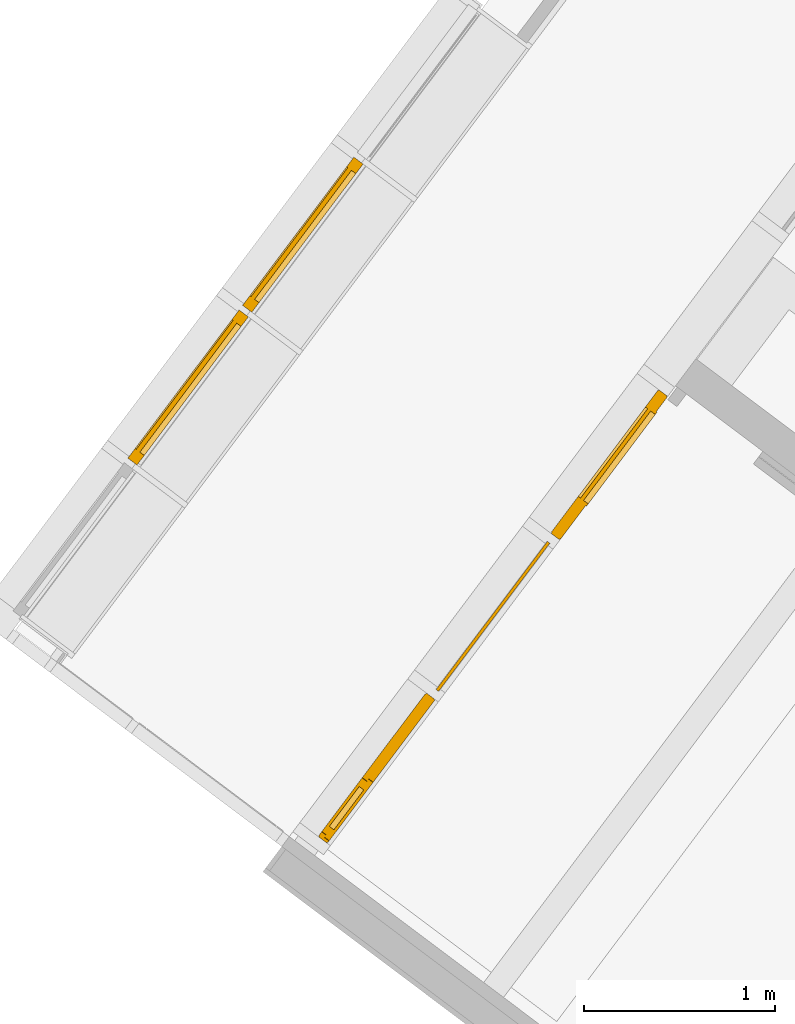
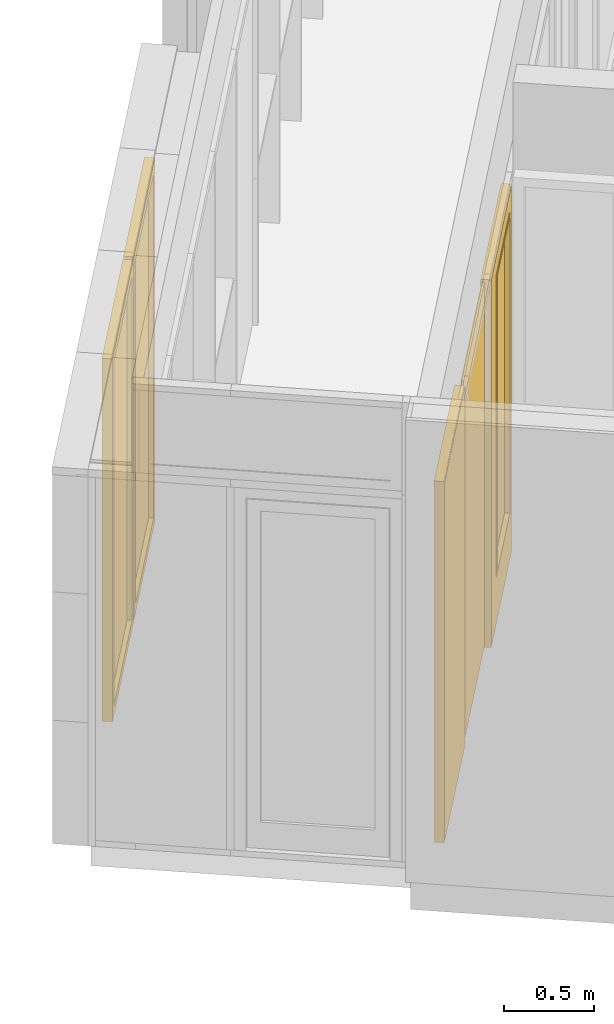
# One storey, part 141 of 243: 4 windows, 1 door, 2 elements without a shape of their own.
"""IFC2X3 building model written with IfcOpenShell, lengths in metres."""

from ifc_helpers import new_model, entity, si_unit, converted_unit, derived_unit, direction, frame, origin, origin_2d_with_axis, place, context, subcontext, project, spatial, rectangle, extrude, faceted_brep, source, transform, mapped, material, material_list, type_object, type_shapes, element, aggregate, save


model = new_model("IFC2X3")

# Units and contexts
model_context = context("Model", 3, precision=1e-05, world=origin(), true_north=direction((6.123031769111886e-17, 1.0)))
body_context = subcontext(model_context, "Body", "Model", "MODEL_VIEW")
ifc_project = project(units=[si_unit("LENGTHUNIT", "METRE"), si_unit("AREAUNIT", "SQUARE_METRE"), si_unit("VOLUMEUNIT", "CUBIC_METRE"), converted_unit("PLANEANGLEUNIT", "DEGREE", entity("IfcRatioMeasure", 0.017453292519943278), si_unit("PLANEANGLEUNIT", "RADIAN"), dimensions=[0, 0, 0, 0, 0, 0, 0]), si_unit("MASSUNIT", "GRAM", prefix="KILO"), derived_unit("MASSDENSITYUNIT", [(si_unit("MASSUNIT", "GRAM", prefix="KILO"), 1), (si_unit("LENGTHUNIT", "METRE"), -3)]), derived_unit("IONCONCENTRATIONUNIT", [(si_unit("MASSUNIT", "GRAM", prefix="KILO"), 1), (si_unit("LENGTHUNIT", "METRE"), -3)]), derived_unit("MOMENTOFINERTIAUNIT", [(si_unit("LENGTHUNIT", "METRE"), 4)]), si_unit("TIMEUNIT", "SECOND"), si_unit("FREQUENCYUNIT", "HERTZ"), si_unit("THERMODYNAMICTEMPERATUREUNIT", "DEGREE_CELSIUS"), derived_unit("THERMALTRANSMITTANCEUNIT", [(si_unit("MASSUNIT", "GRAM", prefix="KILO"), 1), (si_unit("THERMODYNAMICTEMPERATUREUNIT", "KELVIN"), -1), (si_unit("TIMEUNIT", "SECOND"), -3)]), derived_unit("THERMALCONDUCTANCEUNIT", [(si_unit("MASSUNIT", "GRAM", prefix="KILO"), 1), (si_unit("THERMODYNAMICTEMPERATUREUNIT", "KELVIN"), -1), (si_unit("TIMEUNIT", "SECOND"), -3), (si_unit("LENGTHUNIT", "METRE"), 1)]), derived_unit("VOLUMETRICFLOWRATEUNIT", [(si_unit("LENGTHUNIT", "METRE"), 3), (si_unit("TIMEUNIT", "SECOND"), -1)]), derived_unit("MASSFLOWRATEUNIT", [(si_unit("MASSUNIT", "GRAM", prefix="KILO"), 1), (si_unit("TIMEUNIT", "SECOND"), -1)]), derived_unit("ROTATIONALFREQUENCYUNIT", [(si_unit("TIMEUNIT", "SECOND"), -1)]), si_unit("ELECTRICCURRENTUNIT", "AMPERE"), si_unit("ELECTRICVOLTAGEUNIT", "VOLT"), si_unit("POWERUNIT", "WATT"), si_unit("FORCEUNIT", "NEWTON", prefix="KILO"), si_unit("ILLUMINANCEUNIT", "LUX"), si_unit("LUMINOUSFLUXUNIT", "LUMEN"), si_unit("LUMINOUSINTENSITYUNIT", "CANDELA"), derived_unit("USERDEFINED", [(si_unit("MASSUNIT", "GRAM", prefix="KILO"), -1), (si_unit("LENGTHUNIT", "METRE"), -2), (si_unit("TIMEUNIT", "SECOND"), 3), (si_unit("LUMINOUSFLUXUNIT", "LUMEN"), 1)]), derived_unit("USERDEFINED", [(si_unit("MASSUNIT", "GRAM", prefix="KILO"), 1), (si_unit("TIMEUNIT", "SECOND"), -3), (si_unit("LENGTHUNIT", "METRE"), 3), (si_unit("ELECTRICCURRENTUNIT", "AMPERE"), -2)]), derived_unit("SOUNDPOWERUNIT", [(si_unit("MASSUNIT", "GRAM", prefix="KILO"), 1), (si_unit("TIMEUNIT", "SECOND"), -3), (si_unit("LENGTHUNIT", "METRE"), 2)]), derived_unit("SOUNDPRESSUREUNIT", [(si_unit("MASSUNIT", "GRAM", prefix="KILO"), 1), (si_unit("LENGTHUNIT", "METRE"), -1), (si_unit("TIMEUNIT", "SECOND"), -2)]), derived_unit("LINEARVELOCITYUNIT", [(si_unit("LENGTHUNIT", "METRE"), 1), (si_unit("TIMEUNIT", "SECOND"), -1)]), si_unit("PRESSUREUNIT", "PASCAL"), derived_unit("USERDEFINED", [(si_unit("MASSUNIT", "GRAM", prefix="KILO"), 1), (si_unit("LENGTHUNIT", "METRE"), -2), (si_unit("TIMEUNIT", "SECOND"), -2)]), derived_unit("LINEARFORCEUNIT", [(si_unit("MASSUNIT", "GRAM", prefix="KILO"), 1), (si_unit("TIMEUNIT", "SECOND"), -2)]), derived_unit("PLANARFORCEUNIT", [(si_unit("MASSUNIT", "GRAM", prefix="KILO"), 1), (si_unit("LENGTHUNIT", "METRE"), -1), (si_unit("TIMEUNIT", "SECOND"), -2)]), derived_unit("SPECIFICHEATCAPACITYUNIT", [(si_unit("THERMODYNAMICTEMPERATUREUNIT", "KELVIN"), -1), (si_unit("LENGTHUNIT", "METRE"), 2), (si_unit("TIMEUNIT", "SECOND"), -2)]), derived_unit("HEATINGVALUEUNIT", [(si_unit("LENGTHUNIT", "METRE"), 2), (si_unit("TIMEUNIT", "SECOND"), -2)]), derived_unit("VAPORPERMEABILITYUNIT", [(si_unit("LENGTHUNIT", "METRE"), -1), (si_unit("TIMEUNIT", "SECOND"), 1)]), derived_unit("DYNAMICVISCOSITYUNIT", [(si_unit("MASSUNIT", "GRAM", prefix="KILO"), 1), (si_unit("TIMEUNIT", "SECOND"), -1), (si_unit("LENGTHUNIT", "METRE"), -1)]), derived_unit("THERMALEXPANSIONCOEFFICIENTUNIT", [(si_unit("THERMODYNAMICTEMPERATUREUNIT", "KELVIN"), -1)]), derived_unit("MODULUSOFELASTICITYUNIT", [(si_unit("MASSUNIT", "GRAM", prefix="KILO"), 1), (si_unit("LENGTHUNIT", "METRE"), -1), (si_unit("TIMEUNIT", "SECOND"), -2)]), derived_unit("ISOTHERMALMOISTURECAPACITYUNIT", [(si_unit("LENGTHUNIT", "METRE"), 3), (si_unit("MASSUNIT", "GRAM", prefix="KILO"), -1)]), derived_unit("MOISTUREDIFFUSIVITYUNIT", [(si_unit("TIMEUNIT", "SECOND"), -1), (si_unit("LENGTHUNIT", "METRE"), 2)])], contexts=[model_context])

# Site, building, storey
site_placement = place(None, frame((0.0, 0.0, 235.0), z_axis=(0.0, 0.0, 1.0), x_axis=(-0.7996477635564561, 0.6004693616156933, 0.0)))
site = spatial("IfcSite", under=ifc_project, at=site_placement, Name="Default", CompositionType="ELEMENT")
building_placement = place(site_placement, origin())
building = spatial("IfcBuilding", under=site, at=building_placement, CompositionType="ELEMENT")
storey_placement = place(building_placement, origin())
storey = spatial("IfcBuildingStorey", under=building, at=storey_placement, Name="P0- Escola", CompositionType="ELEMENT", Elevation=0.0)

# Curtain wall, windows, door
curtain_wall_type_1 = type_object("IfcCurtainWallType", Name="Muro cortina:MC- INT- a1", PredefinedType="NOTDEFINED")
curtain_wall_1_placement = place(storey_placement, origin())
curtain_wall_1 = element("IfcCurtainWall", 1, at=curtain_wall_1_placement, inside=storey, type_object=curtain_wall_type_1, Name="Muro cortina:MC- INT- a1", ObjectType="Muro cortina:MC- INT- a1")
ifc_material_1 = material(Name="_Fusta massisa- T1-  REV- PAV")
window_style_1 = type_object("IfcWindowStyle", Name="MC- Fusta- Finestra ventilacio interior:MC- Fusta- Finestra ventilacio interior", ConstructionType="NOTDEFINED", OperationType="NOTDEFINED", ParameterTakesPrecedence=False, Sizeable=False, material=ifc_material_1)
shared_shape_1 = source(origin(), body_context, "Body", "Brep", [
    faceted_brep([(-0.39299910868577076, 0.025000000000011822, 2.382999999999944), (-0.3929991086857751, 0.025000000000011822, 1.0449999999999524), (-0.13199910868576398, 0.0250000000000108, 1.0449999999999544), (-0.13199910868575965, 0.02500000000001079, 2.382999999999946), (-0.13199910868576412, -0.004999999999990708, 1.0449999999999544), (-0.1319991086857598, -0.004999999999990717, 2.382999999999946), (-0.3929991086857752, -0.004999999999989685, 1.0449999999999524), (-0.3929991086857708, -0.004999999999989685, 2.382999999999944), (-0.08699910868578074, 0.04000000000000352, 2.427999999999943), (-0.08699910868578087, 0.01000000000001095, 2.428000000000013), (-0.08699910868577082, 0.010000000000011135, 1.0), (-0.08699910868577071, 0.04000000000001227, 1.0), (-0.43799910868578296, 0.010000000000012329, 1.0), (-0.43799910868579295, 0.010000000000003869, 2.427999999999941), (-0.4379991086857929, 0.0400000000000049, 2.427999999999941), (-0.4379991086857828, 0.04000000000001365, 1.0), (-0.07199910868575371, 0.009999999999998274, 0.9850000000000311), (-0.45299910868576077, 0.009999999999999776, 0.9850000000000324), (-0.45299910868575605, 0.010000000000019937, 2.4430000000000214), (-0.07199910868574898, 0.010000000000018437, 2.44300000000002), (-0.07199910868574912, -0.019999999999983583, 2.443000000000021), (-0.45299910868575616, -0.019999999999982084, 2.443000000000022), (-0.45299910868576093, -0.02000000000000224, 0.985000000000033), (-0.07199910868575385, -0.020000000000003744, 0.9850000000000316)], [[[0, 1, 2, 3]], [[3, 2, 4, 5]], [[5, 4, 6, 7]], [[1, 0, 7, 6]], [[8, 9, 10, 11]], [[12, 13, 14, 15]], [[13, 9, 8, 14]], [[8, 11, 15, 14]], [[0, 3, 5, 7]], [[2, 1, 6, 4]], [[11, 10, 12, 15]], [[9, 13, 12, 10], [16, 17, 18, 19]], [[20, 21, 22, 23]], [[20, 19, 18, 21]], [[16, 19, 20, 23]], [[18, 17, 22, 21]], [[16, 23, 22, 17]]], outer=[[True], [True], [True], [True], [True], [True], [True], [True], [True], [True], [True], [False, True], [True], [True], [True], [True], [True]]),
    faceted_brep([(0.4649991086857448, -0.019999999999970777, 2.4549999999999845), (-0.4649991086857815, -0.019999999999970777, 2.4549999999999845), (-0.46499910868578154, -0.020000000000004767, 0.004999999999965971), (0.46499910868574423, -0.020000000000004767, 0.004999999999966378), (-0.4549991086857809, -0.019999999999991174, 0.9850000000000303), (-0.4549991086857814, -0.01999999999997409, 2.444999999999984), (-0.06999910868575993, -0.019999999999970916, 2.444999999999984), (-0.06999910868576, -0.019999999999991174, 0.9850000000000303), (-0.46499910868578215, -0.01599999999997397, 2.454999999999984), (-0.46499910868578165, -0.01600000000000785, 0.004999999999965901), (0.4649991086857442, -0.01600000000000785, 0.004999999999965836), (0.4649991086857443, -0.01599999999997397, 2.454999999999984), (-0.4699991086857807, -0.015999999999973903, 2.459999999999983), (-0.4699991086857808, -0.016000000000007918, 0.0), (0.4699991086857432, -0.016000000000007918, 0.0), (0.46999910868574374, -0.015999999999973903, 2.459999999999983), (0.4649991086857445, 0.03600000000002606, 2.454999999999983), (-0.4649991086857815, 0.03600000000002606, 2.454999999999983), (-0.46499910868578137, 0.03599999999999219, 0.004999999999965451), (0.46499910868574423, 0.03599999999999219, 0.004999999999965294), (0.4699991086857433, 0.036000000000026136, 2.459999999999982), (0.4699991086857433, 0.03599999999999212, 0.0), (-0.4699991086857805, 0.03599999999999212, 0.0), (-0.46999910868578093, 0.036000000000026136, 2.4599999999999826), (-0.46499910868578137, 0.03999999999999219, 0.004999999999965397), (0.4649991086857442, 0.03999999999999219, 0.004999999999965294), (-0.4649991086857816, 0.040000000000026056, 2.4550000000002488), (0.464999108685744, 0.040000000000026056, 2.4549999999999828), (-0.08499910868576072, 0.04000000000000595, 1.0), (-0.08499910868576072, 0.04000000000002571, 2.4299999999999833), (-0.4399991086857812, 0.040000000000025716, 2.4299999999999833), (-0.43999910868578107, 0.04000000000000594, 1.0), (-0.43999910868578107, 0.01000000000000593, 1.0), (-0.43999910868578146, 0.010000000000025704, 2.4299999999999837), (-0.08499910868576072, 0.010000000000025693, 2.4299999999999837), (-0.08499910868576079, 0.010000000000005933, 1.0), (-0.4549991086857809, 0.010000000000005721, 0.9850000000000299), (-0.08499910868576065, 0.010000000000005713, 0.9850000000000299), (-0.06999910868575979, 0.010000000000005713, 0.9850000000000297), (-0.06999910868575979, 0.0100000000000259, 2.4449999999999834), (-0.08499910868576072, 0.0100000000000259, 2.4449999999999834), (-0.4549991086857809, 0.010000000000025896, 2.4449999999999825)], [[[0, 1, 2, 3], [4, 5, 6, 7]], [[8, 9, 2, 1]], [[3, 2, 9, 10]], [[10, 9, 8, 11], [12, 13, 14, 15]], [[16, 17, 18, 19], [20, 21, 22, 23]], [[19, 18, 24, 25]], [[25, 24, 26, 27], [28, 29, 30, 31]], [[32, 33, 34, 35], [36, 37, 38, 39, 40, 41]], [[28, 31, 32, 35]], [[35, 34, 29, 28]], [[33, 32, 31, 30]], [[5, 4, 36, 41]], [[7, 6, 39, 38]], [[38, 37, 36, 4, 7]], [[0, 3, 10, 11]], [[16, 19, 25, 27]], [[15, 14, 21, 20]], [[14, 13, 22, 21]], [[23, 22, 13, 12]], [[1, 0, 11, 8]], [[12, 15, 20, 23]], [[41, 40, 39, 6, 5]], [[30, 29, 34, 33]], [[17, 16, 27, 26]], [[26, 24, 18, 17]]], outer=[[True, False], [True], [True], [False, True], [False, True], [True], [True, False], [False, True], [True], [True], [True], [True], [True], [True], [True], [True], [True], [True], [True], [True], [True], [True], [True], [True], [True]]),
])
type_shapes(window_style_1, [shared_shape_1])
window_1_placement = place(curtain_wall_1_placement, frame((47.32014768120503, -20.915190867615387, 0.059999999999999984), z_axis=(0.0, 0.0, 1.0), x_axis=(0.0, -1.0, 0.0)))
window_1 = element("IfcWindow", 2, at=window_1_placement, type_object=window_style_1, material=ifc_material_1, Name="MC- Fusta- Finestra ventilacio interior:MC- Fusta- Finestra ventilacio interior", ObjectType="MC- Fusta- Finestra ventilacio interior:MC- Fusta- Finestra ventilacio interior", OverallHeight=2.4600000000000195, OverallWidth=0.9399982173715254, context=body_context, shape_type="MappedRepresentation", body=[
    mapped(shared_shape_1, transform((0.0, 0.0, 0.0), scale=1.0)),
])
ifc_material_2 = material(Name="_Vidre")
window_style_2 = type_object("IfcWindowStyle", Name="MC- Fusta- vidre fix:MC- Fusta- vidre fix", ConstructionType="NOTDEFINED", OperationType="NOTDEFINED", ParameterTakesPrecedence=False, Sizeable=False, material=ifc_material_2)
shared_shape_2 = source(origin(), body_context, "Body", "SweptSolid", [
    extrude(rectangle(XDim=0.9699999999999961, YDim=0.015999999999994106, at=origin_2d_with_axis()), frame((0.0, 0.0, 0.0), z_axis=(0.0, 0.0, 1.0), x_axis=(-1.0, 0.0, 0.0)), (0.0, 0.0, 1.0), 2.475),
])
type_shapes(window_style_2, [shared_shape_2])
window_2_placement = place(curtain_wall_1_placement, frame((47.32014768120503, -21.91518997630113, 0.045000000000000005), z_axis=(0.0, 0.0, 1.0), x_axis=(0.0, -1.0, 0.0)))
window_2 = element("IfcWindow", 3, at=window_2_placement, type_object=window_style_2, material=ifc_material_2, Name="MC- Fusta- vidre fix:MC- Fusta- vidre fix", ObjectType="MC- Fusta- vidre fix:MC- Fusta- vidre fix", OverallHeight=2.475, OverallWidth=0.9699999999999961, context=body_context, shape_type="MappedRepresentation", body=[
    mapped(shared_shape_2, transform((0.0, 0.0, 0.0), scale=1.0)),
])
ifc_material_3 = material(Name="_Fusta massisa- T1")
ifc_material_list_1 = material_list([ifc_material_3, ifc_material_2])
door_style = type_object("IfcDoorStyle", Name="MC- Fusta- conjunt porta:MC- Fusta- conjunt Porta aules", ConstructionType="NOTDEFINED", OperationType="NOTDEFINED", ParameterTakesPrecedence=False, Sizeable=False, material=ifc_material_list_1)
shared_shape_3 = source(origin(), body_context, "Body", "Brep", [
    faceted_brep([(-0.24500000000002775, -0.04499999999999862, 2.3799999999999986), (-0.24500000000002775, -0.014999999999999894, 2.3799999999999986), (-0.24500000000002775, -0.01499999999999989, 0.3299999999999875), (-0.24500000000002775, -0.04499999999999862, 0.3299999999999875), (0.37000000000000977, -0.01499999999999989, 0.3299999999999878), (0.37000000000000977, -0.04499999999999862, 0.3299999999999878), (0.3700000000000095, -0.01499999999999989, 2.3799999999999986), (0.3700000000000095, -0.04499999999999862, 2.3799999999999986), (-0.2300000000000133, -0.014999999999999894, 2.3650000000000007), (-0.2300000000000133, -0.014999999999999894, 0.34499999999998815), (0.3549999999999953, -0.014999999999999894, 0.3449999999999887), (0.3549999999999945, -0.014999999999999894, 2.3650000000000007), (-0.2300000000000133, -0.04499999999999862, 2.3650000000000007), (0.3549999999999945, -0.04499999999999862, 2.3650000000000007), (0.3549999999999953, -0.04499999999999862, 0.3449999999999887), (-0.2300000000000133, -0.04499999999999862, 0.34499999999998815)], [[[0, 1, 2, 3]], [[3, 2, 4, 5]], [[5, 4, 6, 7]], [[8, 9, 10, 11], [1, 6, 4, 2]], [[12, 13, 14, 15], [0, 3, 5, 7]], [[15, 9, 8, 12]], [[14, 10, 9, 15]], [[13, 11, 10, 14]], [[7, 6, 1, 0]], [[12, 8, 11, 13]]], outer=[[True], [True], [True], [False, True], [False, True], [True], [True], [True], [True], [True]]),
    faceted_brep([(-0.4399999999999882, 0.01999999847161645, 0.0), (0.4399999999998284, 0.019999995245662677, 0.0), (0.4399999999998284, -0.010000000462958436, 0.0), (0.4549999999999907, -0.010000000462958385, 0.0), (0.4549999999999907, -0.0399999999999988, 0.0), (-0.45500000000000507, -0.03999999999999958, 0.0), (-0.45500000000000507, -0.010000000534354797, 0.0), (-0.4399999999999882, -0.010000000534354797, 0.0), (-0.45500000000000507, -0.03999999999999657, 2.4899999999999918), (0.4549999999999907, -0.03999999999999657, 2.4899999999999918), (-0.2450000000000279, -0.039999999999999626, 0.3300000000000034), (-0.2450000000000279, -0.039999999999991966, 2.3799999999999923), (0.3700000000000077, -0.0399999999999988, 2.3799999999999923), (0.3700000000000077, -0.039999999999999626, 0.3300000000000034), (-0.4550000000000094, -0.010000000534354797, 2.4899999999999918), (0.4549999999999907, -0.010000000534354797, 2.4899999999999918), (-0.4399999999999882, 0.019999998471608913, 2.4749999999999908), (-0.4399999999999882, -0.010000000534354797, 2.4749999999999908), (0.4399999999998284, -0.010000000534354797, 2.4749999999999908), (0.4399999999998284, 0.019999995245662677, 2.4749999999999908), (0.3549999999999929, 0.019999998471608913, 0.3450000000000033), (0.3549999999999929, 0.019999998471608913, 2.364999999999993), (-0.2300000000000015, 0.01999999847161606, 2.364999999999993), (-0.2300000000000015, 0.019999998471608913, 0.3450000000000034), (-0.2300000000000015, 0.005000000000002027, 0.3450000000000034), (0.3549999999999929, 0.005000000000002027, 0.3450000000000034), (-0.2300000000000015, 0.005000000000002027, 2.364999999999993), (0.3549999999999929, 0.0049999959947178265, 2.364999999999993), (0.3700000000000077, 0.005000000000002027, 0.3300000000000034), (0.3700000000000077, 0.005000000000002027, 2.3799999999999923), (-0.24500000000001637, 0.005000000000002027, 2.3799999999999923), (-0.2450000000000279, 0.005000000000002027, 0.3300000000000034), (-0.24500000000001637, 0.004999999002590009, 0.3300000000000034), (-0.24500000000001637, 0.0049999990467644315, 2.3799999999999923), (0.3549999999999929, 0.01999999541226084, 2.364999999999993), (-0.2300000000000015, 0.004999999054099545, 2.364999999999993), (0.3700000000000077, 0.004999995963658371, 2.3799999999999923)], [[[0, 1, 2, 3, 4, 5, 6, 7]], [[8, 5, 4, 9], [10, 11, 12, 13]], [[8, 14, 6, 5]], [[15, 9, 4, 3]], [[16, 0, 7, 17]], [[14, 15, 3, 2, 18, 17, 7, 6]], [[18, 2, 1, 19]], [[20, 21, 22, 23], [16, 19, 1, 0]], [[23, 24, 25, 20]], [[23, 22, 26, 24]], [[25, 27, 21, 20]], [[24, 26, 27, 25], [28, 29, 30, 31]], [[13, 28, 32, 10]], [[31, 33, 11, 10]], [[13, 12, 29, 28]], [[9, 15, 14, 8]], [[17, 18, 19, 16]], [[34, 27, 35, 22]], [[11, 30, 36, 12]]], outer=[[True], [True, False], [True], [True], [True], [True], [True], [False, True], [True], [True], [True], [False, True], [True], [True], [True], [True], [True], [True], [True]]),
    faceted_brep([(0.3700000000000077, 0.004999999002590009, 0.3300000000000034), (0.3700000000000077, -0.0149999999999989, 0.3300000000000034), (-0.24500000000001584, -0.014999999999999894, 0.3300000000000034), (-0.24500000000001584, 0.004999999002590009, 0.3300000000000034), (0.3700000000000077, 0.004999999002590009, 2.380000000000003), (-0.24500000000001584, 0.004999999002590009, 2.380000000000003), (-0.24500000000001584, -0.014999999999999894, 2.380000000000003), (0.3700000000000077, -0.0149999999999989, 2.380000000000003)], [[[0, 1, 2, 3]], [[4, 0, 3, 5]], [[5, 3, 2, 6]], [[6, 2, 1, 7]], [[7, 1, 0, 4]], [[4, 5, 6, 7]]]),
    faceted_brep([(-0.46500000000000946, -0.03999999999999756, 0.0), (-0.46500000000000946, -0.035999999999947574, 0.0), (-0.469999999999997, -0.035999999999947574, 0.0), (-0.469999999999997, 0.016000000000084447, 0.0), (-0.46500000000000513, 0.016000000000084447, 0.0), (-0.46500000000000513, 0.02000000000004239, 0.0), (-0.44000000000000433, 0.02000000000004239, 0.0), (-0.44000000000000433, -0.00999999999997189, 0.0), (-0.4550000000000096, -0.00999999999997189, 0.0), (-0.4550000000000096, -0.03999999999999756, 0.0), (-0.45500000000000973, -0.03999999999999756, 2.4900000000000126), (0.45500000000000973, -0.03999999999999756, 2.4900000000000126), (0.45500000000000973, -0.03999999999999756, 0.0), (0.46500000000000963, -0.03999999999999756, 0.0), (0.46500000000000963, -0.03999999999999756, 2.5000000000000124), (-0.4650000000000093, -0.03999999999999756, 2.500000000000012), (-0.4550000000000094, -0.00999999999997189, 2.4900000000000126), (-0.4400000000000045, -0.00999999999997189, 2.4750000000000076), (0.4400000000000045, -0.00999999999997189, 2.4750000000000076), (0.4400000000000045, -0.00999999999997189, 0.0), (0.45500000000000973, -0.00999999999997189, 0.0), (0.45500000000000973, -0.00999999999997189, 2.4900000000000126), (-0.4400000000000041, 0.02000000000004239, 2.4750000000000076), (-0.4650000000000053, 0.02000000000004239, 2.5000000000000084), (0.4650000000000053, 0.02000000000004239, 2.5000000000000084), (0.4650000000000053, 0.02000000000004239, 0.0), (0.4400000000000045, 0.02000000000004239, 0.0), (0.4400000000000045, 0.02000000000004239, 2.4750000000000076), (-0.46500000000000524, 0.016000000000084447, 2.5000000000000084), (-0.4699999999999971, 0.016000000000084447, 2.5050000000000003), (0.4699999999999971, 0.016000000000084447, 2.5050000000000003), (0.4699999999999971, 0.016000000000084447, 0.0), (0.4650000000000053, 0.016000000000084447, 0.0), (0.4650000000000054, 0.016000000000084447, 2.5000000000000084), (-0.46999999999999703, -0.035999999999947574, 2.5050000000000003), (-0.46500000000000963, -0.035999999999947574, 2.5000000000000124), (0.46500000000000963, -0.035999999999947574, 2.5000000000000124), (0.46500000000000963, -0.035999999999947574, 0.0), (0.4699999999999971, -0.035999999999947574, 0.0), (0.46999999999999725, -0.035999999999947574, 2.5050000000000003)], [[[0, 1, 2, 3, 4, 5, 6, 7, 8, 9]], [[9, 10, 11, 12, 13, 14, 15, 0]], [[8, 16, 10, 9]], [[7, 17, 18, 19, 20, 21, 16, 8]], [[6, 22, 17, 7]], [[5, 23, 24, 25, 26, 27, 22, 6]], [[4, 28, 23, 5]], [[3, 29, 30, 31, 32, 33, 28, 4]], [[2, 34, 29, 3]], [[1, 35, 36, 37, 38, 39, 34, 2]], [[0, 15, 35, 1]], [[14, 13, 37, 36]], [[13, 12, 20, 19, 26, 25, 32, 31, 38, 37]], [[21, 20, 12, 11]], [[27, 26, 19, 18]], [[33, 32, 25, 24]], [[39, 38, 31, 30]], [[16, 21, 11, 10]], [[22, 27, 18, 17]], [[28, 33, 24, 23]], [[34, 39, 30, 29]], [[15, 14, 36, 35]]]),
])
type_shapes(door_style, [shared_shape_3])
door_placement = place(curtain_wall_1_placement, frame((47.320147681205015, -22.91518997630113, 0.0), z_axis=(0.0, 0.0, 1.0), x_axis=(0.0, -1.0, 0.0)))
door = element("IfcDoor", 4, at=door_placement, type_object=door_style, material=ifc_material_list_1, Name="MC- Fusta- conjunt porta:MC- Fusta- conjunt Porta aules", ObjectType="MC- Fusta- conjunt porta:MC- Fusta- conjunt Porta aules", OverallHeight=2.5050000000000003, OverallWidth=0.9399999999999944, context=body_context, shape_type="MappedRepresentation", body=[
    mapped(shared_shape_3, transform((0.0, 0.0, 0.0), scale=1.0)),
])
aggregate(curtain_wall_1, [window_1, window_2, door])

# Curtain wall, windows
curtain_wall_type_2 = type_object("IfcCurtainWallType", Name="Muro cortina:MC- EXT- MC5", PredefinedType="NOTDEFINED")
curtain_wall_2_placement = place(storey_placement, origin())
curtain_wall_2 = element("IfcCurtainWall", 5, at=curtain_wall_2_placement, inside=storey, type_object=curtain_wall_type_2, Name="Muro cortina:MC- EXT- MC5", ObjectType="Muro cortina:MC- EXT- MC5")
ifc_material_4 = material(Name="_Alumini- T1- Perfil")
ifc_material_list_2 = material_list([ifc_material_2, ifc_material_4])
window_style_3 = type_object("IfcWindowStyle", Name="MC- Alu- Conjunt vidre fix- 62x60 cm:MC- Alu- Conjunt vidre fix- 62x60 cm", ConstructionType="NOTDEFINED", OperationType="NOTDEFINED", ParameterTakesPrecedence=False, Sizeable=False, material=ifc_material_list_2)
shared_shape_4 = source(origin(), body_context, "Body", "Brep", [
    faceted_brep([(-0.43619328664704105, -0.007600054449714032, 0.048806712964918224), (0.43619328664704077, -0.007600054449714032, 0.048806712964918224), (0.43619328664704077, -0.03160022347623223, 0.048806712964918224), (-0.43619328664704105, -0.03160022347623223, 0.048806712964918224), (-0.43619328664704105, -0.007600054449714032, 2.422449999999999), (0.43619328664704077, -0.007600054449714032, 2.422449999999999), (0.43619328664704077, -0.03160022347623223, 2.422449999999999), (-0.43619328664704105, -0.03160022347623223, 2.422449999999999)], [[[0, 1, 2, 3]], [[4, 5, 1, 0]], [[5, 6, 2, 1]], [[6, 7, 3, 2]], [[7, 4, 0, 3]], [[4, 7, 6, 5]]]),
    faceted_brep([(-0.4849999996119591, -0.05999999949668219, 2.471449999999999), (-0.4849999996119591, 0.0, 2.471449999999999), (-0.4849999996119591, 0.0, 0.0), (-0.48499999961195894, -0.05999999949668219, 0.0), (-0.4221931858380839, 0.0, 2.408643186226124), (-0.4221931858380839, 0.0, 0.06280681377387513), (0.42219318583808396, 0.0, 0.06280681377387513), (0.422193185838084, 0.0, 2.408643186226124), (0.4849999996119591, 0.0, 2.471449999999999), (0.4849999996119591, 0.0, 0.0), (0.48499999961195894, -0.05999999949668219, 0.0), (0.4849999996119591, -0.05999999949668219, 2.471449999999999), (0.42219603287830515, -0.05999999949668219, 2.408646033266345), (0.42219603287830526, -0.05999999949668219, 0.06280396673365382), (-0.42219603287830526, -0.05999999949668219, 0.06280396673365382), (-0.42219603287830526, -0.05999999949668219, 2.4086460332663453), (-0.42219603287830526, -0.03160022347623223, 2.4086460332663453), (-0.4221960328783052, -0.03160022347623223, 0.06280396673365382), (0.4221960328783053, -0.03160022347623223, 0.06280396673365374), (0.42219603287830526, -0.03160022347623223, 2.4086460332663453), (0.43619328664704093, -0.03160022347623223, 2.422643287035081), (0.43619328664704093, -0.03160022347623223, 0.048806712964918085), (-0.4361932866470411, -0.03160022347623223, 0.04880671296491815), (-0.43619328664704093, -0.03160022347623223, 2.422643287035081), (-0.43619328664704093, -0.007600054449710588, 2.422643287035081), (-0.4361932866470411, -0.007600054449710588, 0.04880671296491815), (0.43619328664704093, -0.007600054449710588, 0.048806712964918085), (0.43619328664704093, -0.007600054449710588, 2.422643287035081), (0.42219318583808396, -0.007600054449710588, 2.408643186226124), (0.42219318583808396, -0.007600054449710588, 0.06280681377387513), (-0.42219318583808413, -0.007600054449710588, 0.06280681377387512), (-0.4221931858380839, -0.007600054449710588, 2.408643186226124)], [[[0, 1, 2, 3]], [[4, 5, 6, 7], [8, 9, 2, 1]], [[3, 2, 9, 10]], [[0, 3, 10, 11], [12, 13, 14, 15]], [[16, 15, 14, 17]], [[17, 14, 13, 18]], [[16, 17, 18, 19], [20, 21, 22, 23]], [[24, 23, 22, 25]], [[25, 22, 21, 26]], [[24, 25, 26, 27], [28, 29, 30, 31]], [[4, 31, 30, 5]], [[5, 30, 29, 6]], [[10, 9, 8, 11]], [[18, 13, 12, 19]], [[26, 21, 20, 27]], [[6, 29, 28, 7]], [[11, 8, 1, 0]], [[19, 12, 15, 16]], [[27, 20, 23, 24]], [[7, 28, 31, 4]]], outer=[[True], [False, True], [True], [True, False], [True], [True], [False, True], [True], [True], [True, False], [True], [True], [True], [True], [True], [True], [True], [True], [True], [True]]),
])
type_shapes(window_style_3, [shared_shape_4])
window_3_placement = place(curtain_wall_2_placement, frame((49.3451476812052, -21.915191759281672, 0.03229999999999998), z_axis=(0.0, 0.0, 1.0), x_axis=(0.0, -1.0, 0.0)))
window_3 = element("IfcWindow", 6, at=window_3_placement, type_object=window_style_3, material=ifc_material_list_2, Name="MC- Alu- Conjunt vidre fix- 62x60 cm:MC- Alu- Conjunt vidre fix- 62x60 cm", ObjectType="MC- Alu- Conjunt vidre fix- 62x60 cm:MC- Alu- Conjunt vidre fix- 62x60 cm", OverallHeight=2.471449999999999, OverallWidth=0.9699999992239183, context=body_context, shape_type="MappedRepresentation", body=[
    mapped(shared_shape_4, transform((0.0, 0.0, 0.0), scale=1.0)),
])
window_4_placement = place(curtain_wall_2_placement, frame((49.3451476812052, -22.915191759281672, 0.03229999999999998), z_axis=(0.0, 0.0, 1.0), x_axis=(0.0, -1.0, 0.0)))
window_4 = element("IfcWindow", 7, at=window_4_placement, type_object=window_style_3, material=ifc_material_list_2, Name="MC- Alu- Conjunt vidre fix- 62x60 cm:MC- Alu- Conjunt vidre fix- 62x60 cm", ObjectType="MC- Alu- Conjunt vidre fix- 62x60 cm:MC- Alu- Conjunt vidre fix- 62x60 cm", OverallHeight=2.471449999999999, OverallWidth=0.9699999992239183, context=body_context, shape_type="MappedRepresentation", body=[
    mapped(shared_shape_4, transform((0.0, 0.0, 0.0), scale=1.0)),
])
aggregate(curtain_wall_2, [window_3, window_4])

save(model, "model.ifc")
